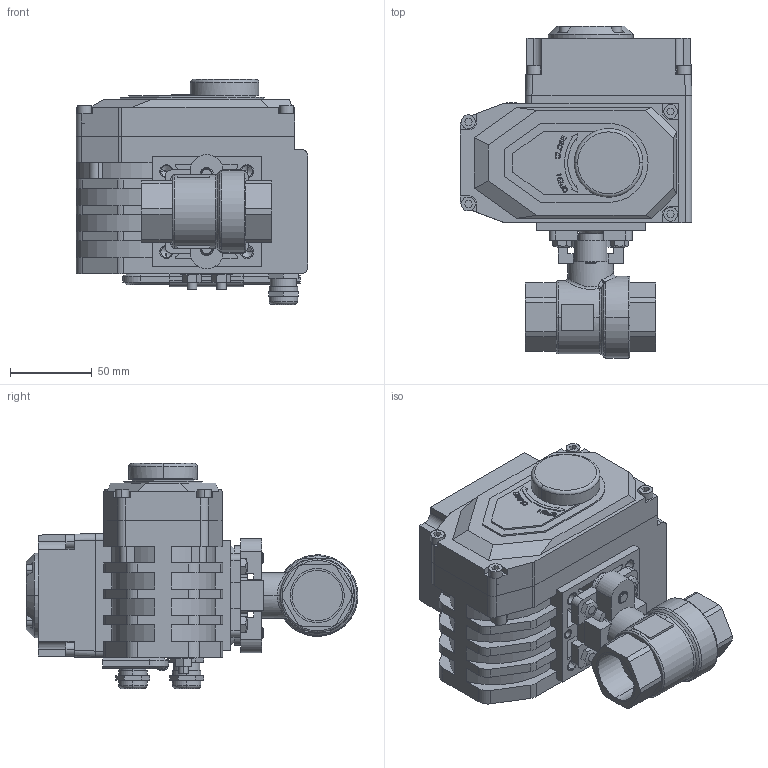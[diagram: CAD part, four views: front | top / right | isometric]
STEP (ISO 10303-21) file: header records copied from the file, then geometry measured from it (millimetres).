
FILE_DESCRIPTION((''),'2;1');
FILE_NAME('BV-21F_EAR_T_ASM','2025-03-02T',('AMD'),(''),'PRO/ENGINEER BY PARAMETRIC TECHNOLOGY CORPORATION, 2008020','PRO/ENGINEER BY PARAMETRIC TECHNOLOGY CORPORATION, 2008020','');
FILE_SCHEMA(('CONFIG_CONTROL_DESIGN'));
Length unit declared in the file: millimetre
Products named in the file (16): KORPUS_KRANA; SHAIBA_KRANA; VINT_KRANA; SB_KRAN_ASM; DET_1; V-11738-M5; V-11738-M4; DET_2; KREPLENIE; KLUCH; DET_3; G-5915-M6; ELECTROPRIVOD_ASM; ELECTROPRIVOD_WITH_DISPLAY_ASM; B-7798-M6-20; BV-21F_EAR_T_ASM
Assembly tree (30 placements, depth 4):
  BV-21F_EAR_T_ASM
    SB_KRAN_ASM
      KORPUS_KRANA
      SHAIBA_KRANA
      VINT_KRANA  x2
    ELECTROPRIVOD_WITH_DISPLAY_ASM
      ELECTROPRIVOD_ASM
        DET_1
        V-11738-M5  x8
        V-11738-M4  x4
        DET_2
        KREPLENIE
        KLUCH
        DET_3
        G-5915-M6  x2
    B-7798-M6-20  x4
Bounding box: 142 x 203.5 x 138 mm (x, y, z)
Volume: 1482935.6 mm3; surface area: 197712.3 mm2
Topology: 27 solids, 65 shells, 1311 faces, 3388 edges, 2214 vertices
Faces by surface type: plane 862, cylinder 334, cone 83, torus 20, bspline 10, sphere 2
Entity records: 33685 total; most frequent: CARTESIAN_POINT 6654, DIRECTION 5598, ORIENTED_EDGE 5440, EDGE_CURVE 2768, VECTOR 2056, LINE 2056, VERTEX_POINT 1824, AXIS2_PLACEMENT_3D 1771
